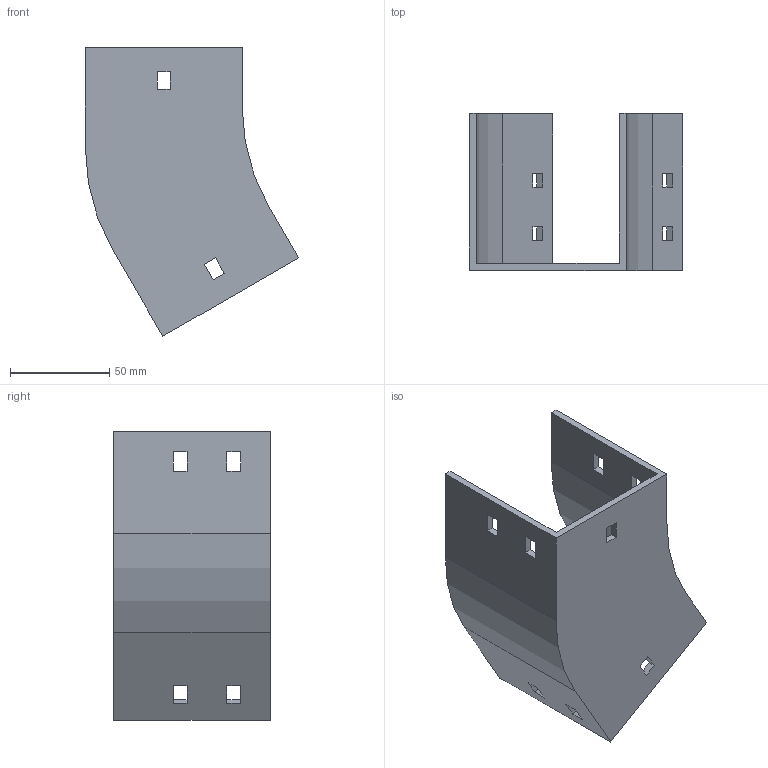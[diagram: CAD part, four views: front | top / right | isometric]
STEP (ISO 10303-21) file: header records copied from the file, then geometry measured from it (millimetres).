
FILE_DESCRIPTION (( 'STEP AP214' ), '1' );
FILE_NAME ('12F1C075.step', '2025-02-21T12:54:25', ( '' ), ( '' ), 'SwSTEP 2.0', 'SolidWorks 2023', '' );
FILE_SCHEMA (( 'AUTOMOTIVE_DESIGN' ));
Length unit declared in the file: millimetre
Products named in the file (1): 12F1C075
Bounding box: 107.4 x 79 x 145.48 mm (x, y, z)
Volume: 105460.5 mm3; surface area: 63976.8 mm2
Topology: 1 solids, 1 shells, 58 faces, 168 edges, 112 vertices
Faces by surface type: plane 54, cylinder 4
Entity records: 1943 total; most frequent: CARTESIAN_POINT 339, ORIENTED_EDGE 336, DIRECTION 294, EDGE_CURVE 168, VECTOR 160, LINE 160, VERTEX_POINT 112, EDGE_LOOP 78
